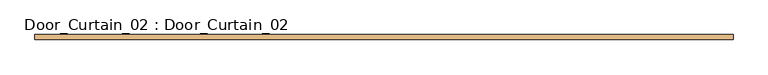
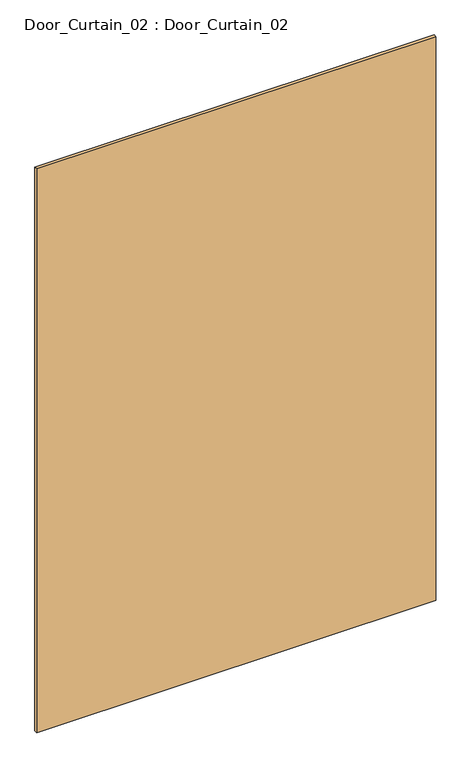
"""IFC4 building model written with IfcOpenShell, lengths in millimetres: door geometry, Door_Curtain_02 : Door_Curtain_02."""

from ifc_helpers import new_model, si_unit, origin, origin_with_axes, place, context, project, spatial, polyline, outline, extrude, source, transform, mapped, element, save


def door_curtain_02_door_curtain_02_69103538(model_context):
    return source(origin(), model_context, "Body", "SweptSolid", [
        extrude(outline(polyline([(875.0, 5.0), (875.0, -7.7), (-875.0, -7.7), (-875.0, 5.0), (875.0, 5.0)])), origin_with_axes(), (0.0, 0.0, 1.0), 2615.0),
    ])


if __name__ == "__main__":
    model = new_model("IFC4")
    model_context = context("Model", 3, world=origin())
    ifc_project = project(units=[si_unit("LENGTHUNIT", "METRE", prefix="MILLI")], contexts=[model_context])
    site = spatial("IfcSite", under=ifc_project)
    building = spatial("IfcBuilding", under=site)
    placement = place(None, origin())
    door_curtain_02_door_curtain_02_shape = door_curtain_02_door_curtain_02_69103538(model_context)
    element("IfcDoor", 1, ObjectType="Door_Curtain_02 : Door_Curtain_02", at=placement, inside=building, context=model_context, shape_type="MappedRepresentation", body=[
        mapped(door_curtain_02_door_curtain_02_shape, transform((0.0, 0.0, 0.0), x_axis=(1.0, 0.0, 0.0), y_axis=(0.0, 1.0, 0.0), z_axis=(0.0, 0.0, 1.0))),
    ])
    save(model, "model.ifc")
